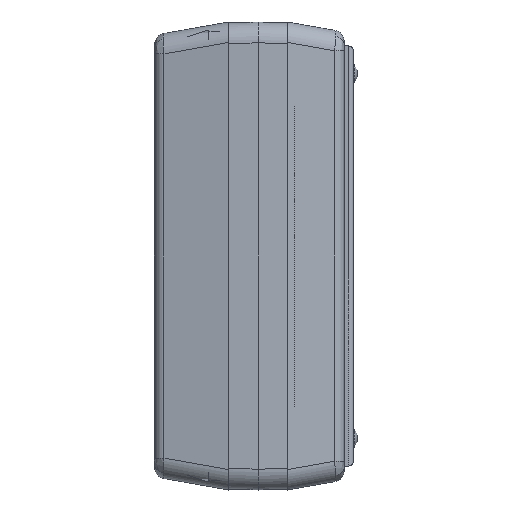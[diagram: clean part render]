
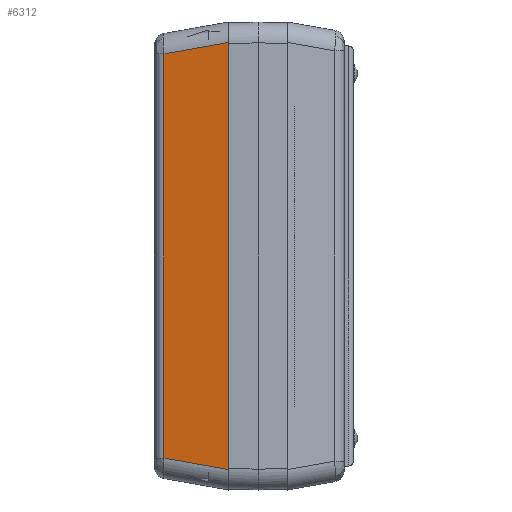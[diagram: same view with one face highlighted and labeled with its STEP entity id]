
A CAD part, left-side view. The second image highlights one B-rep face of the part: STEP entity #6312.
In plain terms, the highlighted planar face has unit normal (-0.985, 0.174, 0).
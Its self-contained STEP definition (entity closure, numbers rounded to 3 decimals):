
#138 = VECTOR ( 'NONE', #1277, 1000. ) ;
#295 = CARTESIAN_POINT ( 'NONE',  ( -95.3, 0., -46.268 ) ) ;
#700 = CARTESIAN_POINT ( 'NONE',  ( -92.462, 16.097, 43.43 ) ) ;
#794 = CARTESIAN_POINT ( 'NONE',  ( -92.825, 14.034, -43.794 ) ) ;
#1277 = DIRECTION ( 'NONE',  ( 0., 0., -1. ) ) ;
#1768 = CARTESIAN_POINT ( 'NONE',  ( -95.43, -0.736, -46.398 ) ) ;
#2826 = PLANE ( 'NONE',  #11972 ) ;
#5000 = DIRECTION ( 'NONE',  ( -0.174, -0.985, 0. ) ) ;
#5040 = EDGE_CURVE ( 'NONE', #18527, #10361, #7653, .T. ) ;
#5067 = VERTEX_POINT ( 'NONE', #794 ) ;
#5889 = ORIENTED_EDGE ( 'NONE', *, *, #26161, .T. ) ;
#6140 = LINE ( 'NONE', #26744, #12305 ) ;
#6312 = ADVANCED_FACE ( 'NONE', ( #12553 ), #2826, .T. ) ;
#7653 = LINE ( 'NONE', #700, #24240 ) ;
#8816 = EDGE_LOOP ( 'NONE', ( #10028, #16210, #5889, #8898 ) ) ;
#8898 = ORIENTED_EDGE ( 'NONE', *, *, #25676, .T. ) ;
#9423 = CARTESIAN_POINT ( 'NONE',  ( -95.3, 0., 46.268 ) ) ;
#10028 = ORIENTED_EDGE ( 'NONE', *, *, #11672, .T. ) ;
#10361 = VERTEX_POINT ( 'NONE', #24666 ) ;
#11154 = CARTESIAN_POINT ( 'NONE',  ( -95.3, 0., -50.7 ) ) ;
#11672 = EDGE_CURVE ( 'NONE', #19750, #18527, #6140, .T. ) ;
#11972 = AXIS2_PLACEMENT_3D ( 'NONE', #11154, #17435, #5000 ) ;
#12305 = VECTOR ( 'NONE', #14273, 1000. ) ;
#12553 = FACE_OUTER_BOUND ( 'NONE', #8816, .T. ) ;
#13119 = DIRECTION ( 'NONE',  ( 0.171, 0.97, -0.171 ) ) ;
#14273 = DIRECTION ( 'NONE',  ( 0., 0., 1. ) ) ;
#14754 = VECTOR ( 'NONE', #18351, 1000. ) ;
#16013 = LINE ( 'NONE', #26176, #138 ) ;
#16210 = ORIENTED_EDGE ( 'NONE', *, *, #5040, .T. ) ;
#17435 = DIRECTION ( 'NONE',  ( -0.985, 0.174, 0. ) ) ;
#18351 = DIRECTION ( 'NONE',  ( -0.171, -0.97, -0.171 ) ) ;
#18527 = VERTEX_POINT ( 'NONE', #9423 ) ;
#19750 = VERTEX_POINT ( 'NONE', #295 ) ;
#24240 = VECTOR ( 'NONE', #13119, 1000. ) ;
#24666 = CARTESIAN_POINT ( 'NONE',  ( -92.825, 14.034, 43.794 ) ) ;
#25676 = EDGE_CURVE ( 'NONE', #5067, #19750, #25854, .T. ) ;
#25854 = LINE ( 'NONE', #1768, #14754 ) ;
#26161 = EDGE_CURVE ( 'NONE', #10361, #5067, #16013, .T. ) ;
#26176 = CARTESIAN_POINT ( 'NONE',  ( -92.825, 14.034, -47.861 ) ) ;
#26744 = CARTESIAN_POINT ( 'NONE',  ( -95.3, 0., -50.7 ) ) ;
